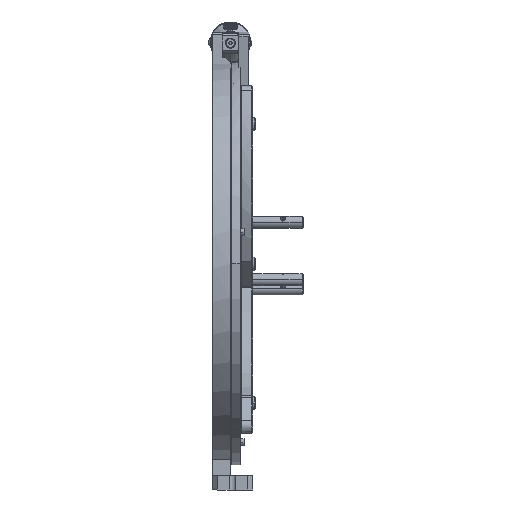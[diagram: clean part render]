
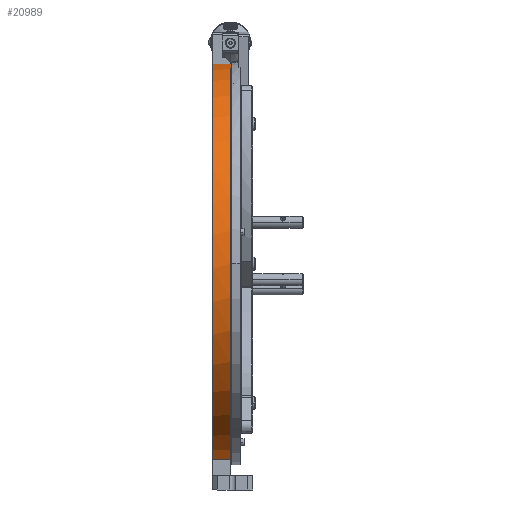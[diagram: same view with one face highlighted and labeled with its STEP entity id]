
A CAD part, left-side view. The second image highlights one B-rep face of the part: STEP entity #20989.
In plain terms, the highlighted cylindrical face has radius 199 mm (diameter 398 mm), a partial arc.
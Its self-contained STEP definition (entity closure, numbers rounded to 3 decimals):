
#13403 = VERTEX_POINT ( 'NONE', #34000 ) ;
#13405 = EDGE_CURVE ( 'NONE', #66320, #13403, #33994, .T. ) ;
#13418 = EDGE_CURVE ( 'NONE', #13419, #66321, #33973, .T. ) ;
#13419 = VERTEX_POINT ( 'NONE', #34036 ) ;
#20989 = ADVANCED_FACE ( 'NONE', ( #48189 ), #48188, .T. ) ;
#20991 = EDGE_LOOP ( 'NONE', ( #20994, #20996, #20999, #21001, #21005, #21037 ) ) ;
#20994 = ORIENTED_EDGE ( 'NONE', *, *, #13418, .T. ) ;
#20996 = ORIENTED_EDGE ( 'NONE', *, *, #66323, .T. ) ;
#20999 = ORIENTED_EDGE ( 'NONE', *, *, #13405, .T. ) ;
#21001 = ORIENTED_EDGE ( 'NONE', *, *, #21003, .T. ) ;
#21003 = EDGE_CURVE ( 'NONE', #13403, #21004, #48233, .T. ) ;
#21004 = VERTEX_POINT ( 'NONE', #48229 ) ;
#21005 = ORIENTED_EDGE ( 'NONE', *, *, #21032, .F. ) ;
#21032 = EDGE_CURVE ( 'NONE', #21034, #21004, #48251, .T. ) ;
#21034 = VERTEX_POINT ( 'NONE', #48298 ) ;
#21037 = ORIENTED_EDGE ( 'NONE', *, *, #21038, .T. ) ;
#21038 = EDGE_CURVE ( 'NONE', #21034, #13419, #48295, .T. ) ;
#33970 = DIRECTION ( 'NONE',  ( 0., -1., 0. ) ) ;
#33971 = VECTOR ( 'NONE', #33970, 1000. ) ;
#33972 = CARTESIAN_POINT ( 'NONE',  ( -87.154, 4.189, -195. ) ) ;
#33973 = LINE ( 'NONE', #33972, #33971 ) ;
#33990 = DIRECTION ( 'NONE',  ( 1., 0., 0. ) ) ;
#33991 = DIRECTION ( 'NONE',  ( 0., 1., 0. ) ) ;
#33992 = CARTESIAN_POINT ( 'NONE',  ( -47.455, 14.089, 0. ) ) ;
#33993 = AXIS2_PLACEMENT_3D ( 'NONE', #33992, #33991, #33990 ) ;
#33994 = CIRCLE ( 'NONE', #33993, 199. ) ;
#34000 = CARTESIAN_POINT ( 'NONE',  ( 2.545, 14.089, 192.616 ) ) ;
#34036 = CARTESIAN_POINT ( 'NONE',  ( -87.154, 14.189, -195. ) ) ;
#48184 = DIRECTION ( 'NONE',  ( 1., 0., 0. ) ) ;
#48185 = DIRECTION ( 'NONE',  ( 0., -1., 0. ) ) ;
#48186 = CARTESIAN_POINT ( 'NONE',  ( -47.455, 22.939, 0. ) ) ;
#48187 = AXIS2_PLACEMENT_3D ( 'NONE', #48186, #48185, #48184 ) ;
#48188 = CYLINDRICAL_SURFACE ( 'NONE', #48187, 199. ) ;
#48189 = FACE_OUTER_BOUND ( 'NONE', #20991, .T. ) ;
#48229 = CARTESIAN_POINT ( 'NONE',  ( 2.545, 31.789, 192.616 ) ) ;
#48230 = DIRECTION ( 'NONE',  ( 0., 1., 0. ) ) ;
#48231 = VECTOR ( 'NONE', #48230, 1000. ) ;
#48232 = CARTESIAN_POINT ( 'NONE',  ( 2.545, 4.189, 192.616 ) ) ;
#48233 = LINE ( 'NONE', #48232, #48231 ) ;
#48243 = DIRECTION ( 'NONE',  ( 1., 0., 0. ) ) ;
#48244 = DIRECTION ( 'NONE',  ( 0., 1., 0. ) ) ;
#48245 = CARTESIAN_POINT ( 'NONE',  ( -47.455, 31.789, 0. ) ) ;
#48246 = AXIS2_PLACEMENT_3D ( 'NONE', #48245, #48244, #48243 ) ;
#48251 = CIRCLE ( 'NONE', #48246, 199. ) ;
#48292 = DIRECTION ( 'NONE',  ( 0., -1., 0. ) ) ;
#48293 = VECTOR ( 'NONE', #48292, 1000. ) ;
#48294 = CARTESIAN_POINT ( 'NONE',  ( -87.154, 23.189, -195. ) ) ;
#48295 = LINE ( 'NONE', #48294, #48293 ) ;
#48298 = CARTESIAN_POINT ( 'NONE',  ( -87.154, 31.789, -195. ) ) ;
#66320 = VERTEX_POINT ( 'NONE', #72516 ) ;
#66321 = VERTEX_POINT ( 'NONE', #72514 ) ;
#66323 = EDGE_CURVE ( 'NONE', #66321, #66320, #72509, .T. ) ;
#72503 = DIRECTION ( 'NONE',  ( 1., 0., 0. ) ) ;
#72504 = DIRECTION ( 'NONE',  ( 0., 1., 0. ) ) ;
#72506 = CARTESIAN_POINT ( 'NONE',  ( -47.455, 14.089, 0. ) ) ;
#72507 = AXIS2_PLACEMENT_3D ( 'NONE', #72506, #72504, #72503 ) ;
#72509 = CIRCLE ( 'NONE', #72507, 199. ) ;
#72514 = CARTESIAN_POINT ( 'NONE',  ( -87.154, 14.089, -195. ) ) ;
#72516 = CARTESIAN_POINT ( 'NONE',  ( -246.455, 14.089, 0. ) ) ;
